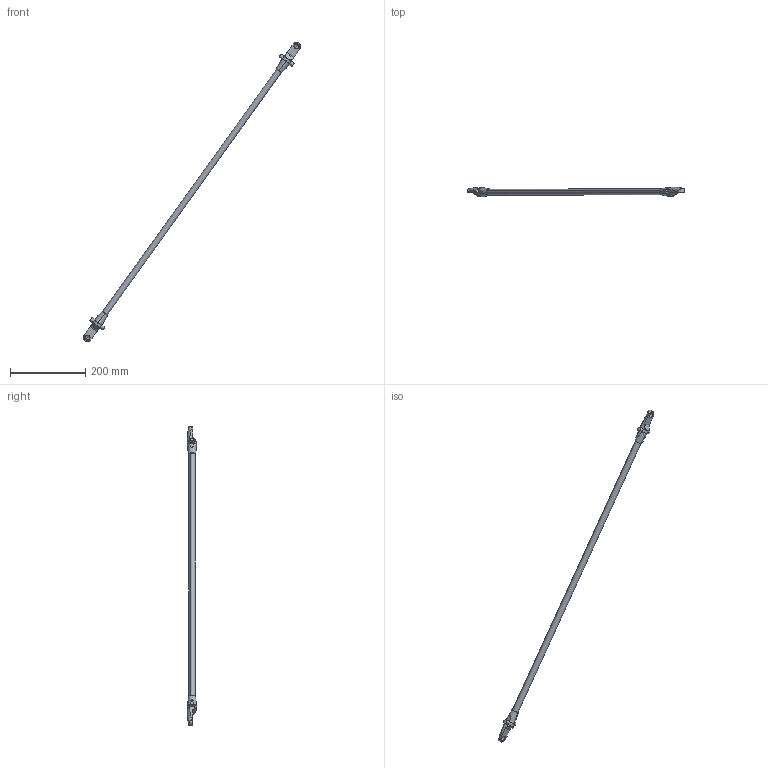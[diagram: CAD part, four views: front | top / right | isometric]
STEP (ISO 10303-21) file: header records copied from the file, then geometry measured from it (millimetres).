
FILE_DESCRIPTION (( 'STEP AP214' ), '1' );
FILE_NAME ('IRB365_1.5-1300_OmniCore_rev00_LINK_1_CAD.step', '2025-09-09T11:52:17', ( '' ), ( '' ), 'SwSTEP 2.0', 'SolidWorks 2024', '' );
FILE_SCHEMA (( 'AUTOMOTIVE_DESIGN' ));
Length unit declared in the file: millimetre
Products named in the file (1): IRB365_1.5-1300_OmniCore_rev00_LINK_1_CAD
Bounding box: 574.9 x 25 x 792.64 mm (x, y, z)
Volume: 217583.2 mm3; surface area: 53587.7 mm2
Topology: 1 solids, 1 shells, 60 faces, 146 edges, 92 vertices
Faces by surface type: cylinder 22, plane 18, torus 8, cone 8, sphere 4
Entity records: 3777 total; most frequent: CARTESIAN_POINT 1711, DIRECTION 300, ORIENTED_EDGE 280, EDGE_CURVE 140, AXIS2_PLACEMENT_3D 127, VERTEX_POINT 90, EDGE_LOOP 68, CIRCLE 66
